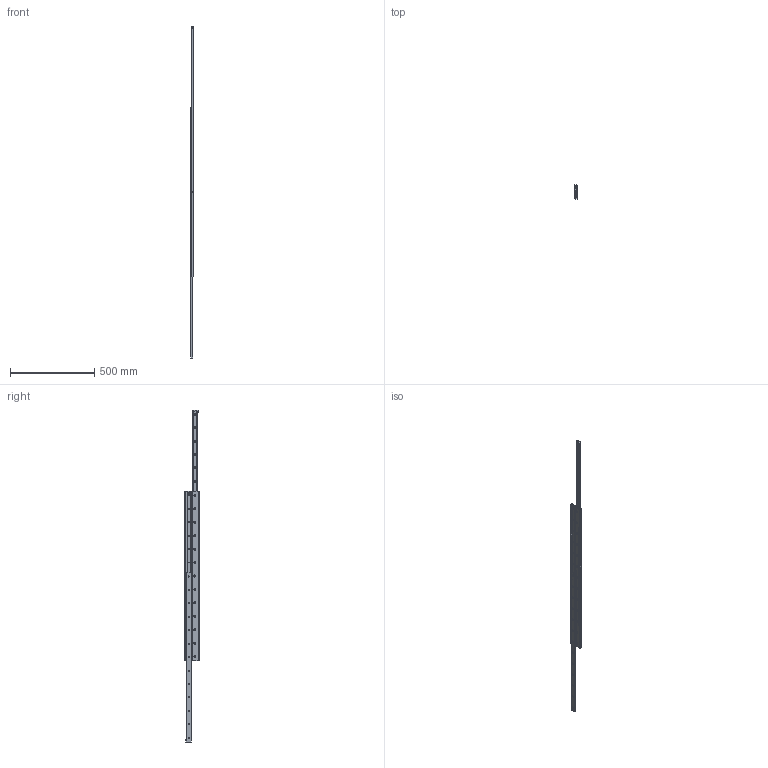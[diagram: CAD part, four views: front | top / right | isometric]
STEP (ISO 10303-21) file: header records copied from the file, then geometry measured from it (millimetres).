
FILE_DESCRIPTION (( 'STEP AP203' ), '1' );
FILE_NAME ('L1984.28D-1010.step', '2018-07-03T12:15:41', ( '' ), ( '' ), 'SwSTEP 2.0', 'SolidWorks 2017', '' );
FILE_SCHEMA (( 'CONFIG_CONTROL_DESIGN' ));
Length unit declared in the file: millimetre
Products named in the file (5): Part2_L1984.28D-1010; Part1_L1984.28D-1010; L1984.28D-1010; Part0_L1984.28D-1010; Part3_L1984.28D-1010
Assembly tree (7 placements, depth 2):
  L1984.28D-1010
    Part0_L1984.28D-1010
    Part2_L1984.28D-1010  x2
    Part1_L1984.28D-1010  x2
    Part3_L1984.28D-1010  x2
Bounding box: 17 x 84 x 1976 mm (x, y, z)
Volume: 866031 mm3; surface area: 595479.2 mm2
Topology: 7 solids, 7 shells, 662 faces, 1678 edges, 1116 vertices
Faces by surface type: plane 436, cylinder 122, cone 104
Entity records: 15046 total; most frequent: CARTESIAN_POINT 2505, DIRECTION 2483, ORIENTED_EDGE 2418, EDGE_CURVE 1209, LINE 919, VECTOR 919, VERTEX_POINT 804, AXIS2_PLACEMENT_3D 782
